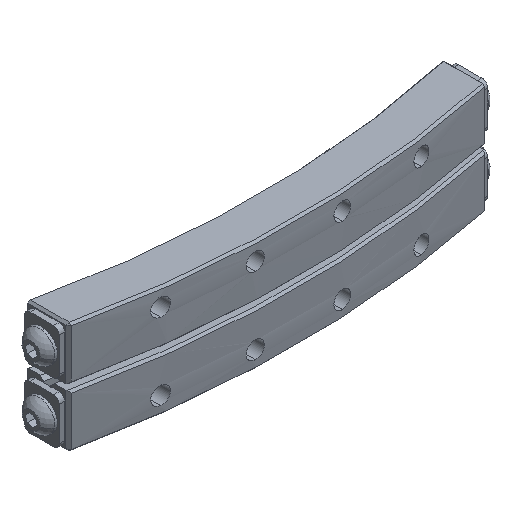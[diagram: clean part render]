
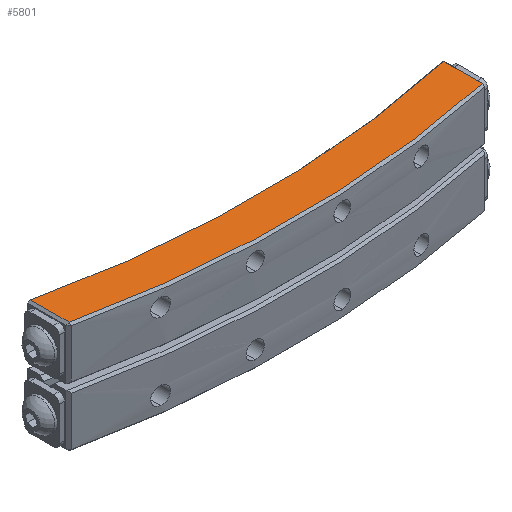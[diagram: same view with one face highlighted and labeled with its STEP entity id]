
A CAD part, isometric view. The second image highlights one B-rep face of the part: STEP entity #5801.
In plain terms, the highlighted planar face has unit normal (0, 0, 1).
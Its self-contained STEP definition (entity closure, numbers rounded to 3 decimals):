
#45 = CARTESIAN_POINT ( 'NONE',  ( -29.7, -138.283, 8. ) ) ;
#73 = VERTEX_POINT ( 'NONE', #4376 ) ;
#536 = DIRECTION ( 'NONE',  ( 0., 1., 0. ) ) ;
#565 = CARTESIAN_POINT ( 'NONE',  ( -29.7, -132.512, 8. ) ) ;
#594 = CIRCLE ( 'NONE', #1401, 141.2 ) ;
#848 = CARTESIAN_POINT ( 'NONE',  ( 29.7, -132.512, 8. ) ) ;
#1062 = LINE ( 'NONE', #45, #6334 ) ;
#1150 = EDGE_CURVE ( 'NONE', #6612, #5438, #1062, .T. ) ;
#1188 = ORIENTED_EDGE ( 'NONE', *, *, #3297, .T. ) ;
#1401 = AXIS2_PLACEMENT_3D ( 'NONE', #3064, #7369, #4232 ) ;
#1754 = VERTEX_POINT ( 'NONE', #848 ) ;
#1954 = LINE ( 'NONE', #4408, #7420 ) ;
#2368 = ORIENTED_EDGE ( 'NONE', *, *, #4979, .T. ) ;
#3064 = CARTESIAN_POINT ( 'NONE',  ( 0., 0., 8. ) ) ;
#3271 = CARTESIAN_POINT ( 'NONE',  ( 0., 0., 8. ) ) ;
#3297 = EDGE_CURVE ( 'NONE', #5438, #73, #594, .T. ) ;
#3316 = DIRECTION ( 'NONE',  ( 0., 0., 1. ) ) ;
#3630 = EDGE_CURVE ( 'NONE', #1754, #6612, #7662, .T. ) ;
#3685 = EDGE_LOOP ( 'NONE', ( #6977, #1188, #2368, #5743 ) ) ;
#3918 = AXIS2_PLACEMENT_3D ( 'NONE', #7670, #3316, #5729 ) ;
#4232 = DIRECTION ( 'NONE',  ( 1., 0., 0. ) ) ;
#4235 = CARTESIAN_POINT ( 'NONE',  ( -29.7, -138.041, 8. ) ) ;
#4287 = AXIS2_PLACEMENT_3D ( 'NONE', #3271, #7113, #7673 ) ;
#4376 = CARTESIAN_POINT ( 'NONE',  ( 29.7, -138.041, 8. ) ) ;
#4408 = CARTESIAN_POINT ( 'NONE',  ( 29.7, -132.137, 8. ) ) ;
#4979 = EDGE_CURVE ( 'NONE', #73, #1754, #1954, .T. ) ;
#5438 = VERTEX_POINT ( 'NONE', #4235 ) ;
#5729 = DIRECTION ( 'NONE',  ( 1., 0., 0. ) ) ;
#5743 = ORIENTED_EDGE ( 'NONE', *, *, #3630, .T. ) ;
#5801 = ADVANCED_FACE ( 'NONE', ( #7898 ), #7107, .T. ) ;
#5868 = DIRECTION ( 'NONE',  ( 0., -1., 0. ) ) ;
#6334 = VECTOR ( 'NONE', #5868, 1000. ) ;
#6612 = VERTEX_POINT ( 'NONE', #565 ) ;
#6977 = ORIENTED_EDGE ( 'NONE', *, *, #1150, .T. ) ;
#7107 = PLANE ( 'NONE',  #3918 ) ;
#7113 = DIRECTION ( 'NONE',  ( 0., 0., -1. ) ) ;
#7369 = DIRECTION ( 'NONE',  ( 0., 0., 1. ) ) ;
#7420 = VECTOR ( 'NONE', #536, 1000. ) ;
#7662 = CIRCLE ( 'NONE', #4287, 135.8 ) ;
#7670 = CARTESIAN_POINT ( 'NONE',  ( 39.134, -129.726, 8. ) ) ;
#7673 = DIRECTION ( 'NONE',  ( 1., 0., 0. ) ) ;
#7898 = FACE_OUTER_BOUND ( 'NONE', #3685, .T. ) ;
